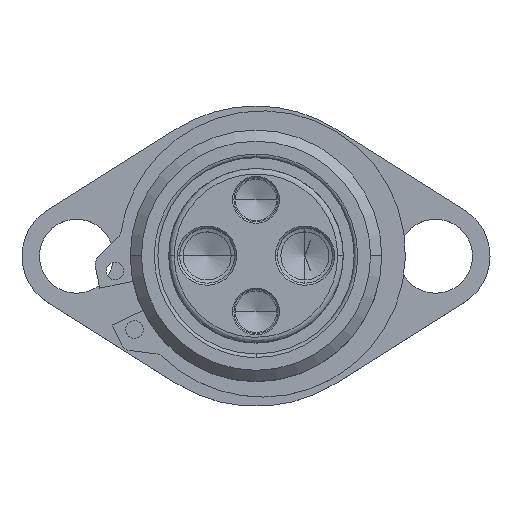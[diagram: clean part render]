
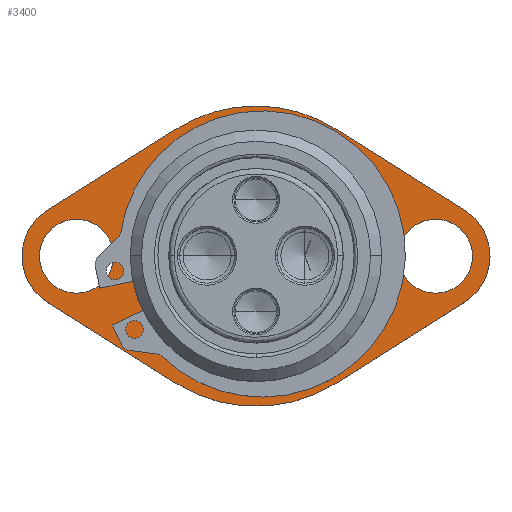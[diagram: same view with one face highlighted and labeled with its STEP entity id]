
A CAD part, top view. The second image highlights one B-rep face of the part: STEP entity #3400.
In plain terms, the highlighted planar face has unit normal (0, 0, 1) as drawn and (0, 1, 0) by its records, which use the part's own axes.
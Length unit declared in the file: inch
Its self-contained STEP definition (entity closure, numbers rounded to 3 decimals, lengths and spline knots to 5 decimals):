
#45 = CARTESIAN_POINT ( 'NONE',  ( 0., 0.25, 0. ) ) ;
#49 = DIRECTION ( 'NONE',  ( 0.846, 0., 0.533 ) ) ;
#168 = DIRECTION ( 'NONE',  ( 0., 0., 1. ) ) ;
#173 = DIRECTION ( 'NONE',  ( 0., 0., -1. ) ) ;
#272 = EDGE_CURVE ( 'NONE', #4835, #4125, #2922, .T. ) ;
#295 = CARTESIAN_POINT ( 'NONE',  ( -1.285, 0.25, 0. ) ) ;
#323 = CIRCLE ( 'NONE', #3533, 0.39 ) ;
#335 = VECTOR ( 'NONE', #1995, 39.37008 ) ;
#397 = CARTESIAN_POINT ( 'NONE',  ( -1.285, 0.25, 0. ) ) ;
#528 = EDGE_CURVE ( 'NONE', #3159, #596, #4292, .T. ) ;
#554 = CARTESIAN_POINT ( 'NONE',  ( 0., 0.25, 0. ) ) ;
#561 = ORIENTED_EDGE ( 'NONE', *, *, #4754, .T. ) ;
#589 = AXIS2_PLACEMENT_3D ( 'NONE', #397, #3460, #3077 ) ;
#595 = DIRECTION ( 'NONE',  ( 0., 0., -1. ) ) ;
#596 = VERTEX_POINT ( 'NONE', #4041 ) ;
#622 = CARTESIAN_POINT ( 'NONE',  ( 0., 0.25, -1.075 ) ) ;
#647 = VERTEX_POINT ( 'NONE', #651 ) ;
#651 = CARTESIAN_POINT ( 'NONE',  ( -1.285, 0.25, 0.265 ) ) ;
#722 = CIRCLE ( 'NONE', #1578, 1.075 ) ;
#778 = DIRECTION ( 'NONE',  ( 0., 0., -1. ) ) ;
#801 = EDGE_CURVE ( 'NONE', #3159, #3498, #1424, .T. ) ;
#820 = FACE_OUTER_BOUND ( 'NONE', #2929, .T. ) ;
#841 = VERTEX_POINT ( 'NONE', #4891 ) ;
#855 = LINE ( 'NONE', #4238, #335 ) ;
#912 = AXIS2_PLACEMENT_3D ( 'NONE', #3130, #2364, #778 ) ;
#965 = FACE_BOUND ( 'NONE', #3231, .T. ) ;
#1027 = CARTESIAN_POINT ( 'NONE',  ( 0.57305, 0.25, -0.90952 ) ) ;
#1082 = ORIENTED_EDGE ( 'NONE', *, *, #1440, .T. ) ;
#1089 = ORIENTED_EDGE ( 'NONE', *, *, #4317, .T. ) ;
#1152 = DIRECTION ( 'NONE',  ( 0., -1., 0. ) ) ;
#1179 = VERTEX_POINT ( 'NONE', #3786 ) ;
#1184 = VERTEX_POINT ( 'NONE', #4537 ) ;
#1235 = VECTOR ( 'NONE', #4340, 39.37008 ) ;
#1247 = ORIENTED_EDGE ( 'NONE', *, *, #801, .F. ) ;
#1340 = EDGE_CURVE ( 'NONE', #4075, #596, #4339, .T. ) ;
#1348 = CIRCLE ( 'NONE', #2892, 0.265 ) ;
#1393 = CARTESIAN_POINT ( 'NONE',  ( 1.4929, 0.25, 0.32997 ) ) ;
#1424 = CIRCLE ( 'NONE', #2278, 0.39 ) ;
#1440 = EDGE_CURVE ( 'NONE', #841, #3032, #1348, .T. ) ;
#1488 = CARTESIAN_POINT ( 'NONE',  ( 1.285, 0.25, 0. ) ) ;
#1490 = EDGE_LOOP ( 'NONE', ( #1082, #3023 ) ) ;
#1500 = CARTESIAN_POINT ( 'NONE',  ( 1.285, 0.25, 0. ) ) ;
#1578 = AXIS2_PLACEMENT_3D ( 'NONE', #4321, #3263, #595 ) ;
#1586 = CARTESIAN_POINT ( 'NONE',  ( 1.4929, 0.25, -0.32997 ) ) ;
#1593 = VERTEX_POINT ( 'NONE', #3395 ) ;
#1594 = EDGE_CURVE ( 'NONE', #1179, #3636, #323, .T. ) ;
#1609 = CARTESIAN_POINT ( 'NONE',  ( 0., 0.25, 0. ) ) ;
#1611 = CARTESIAN_POINT ( 'NONE',  ( -0.57305, 0.25, -0.90952 ) ) ;
#1625 = CARTESIAN_POINT ( 'NONE',  ( -1.285, 0.25, 0. ) ) ;
#1684 = DIRECTION ( 'NONE',  ( 0., -1., 0. ) ) ;
#1754 = DIRECTION ( 'NONE',  ( 0., -1., 0. ) ) ;
#1835 = CIRCLE ( 'NONE', #4817, 0.265 ) ;
#1904 = ORIENTED_EDGE ( 'NONE', *, *, #1340, .F. ) ;
#1988 = FACE_BOUND ( 'NONE', #1490, .T. ) ;
#1995 = DIRECTION ( 'NONE',  ( 0.846, 0., -0.533 ) ) ;
#2070 = EDGE_CURVE ( 'NONE', #1184, #647, #3242, .T. ) ;
#2106 = EDGE_CURVE ( 'NONE', #3573, #4075, #722, .T. ) ;
#2200 = LINE ( 'NONE', #3603, #1235 ) ;
#2266 = EDGE_CURVE ( 'NONE', #3032, #841, #1835, .T. ) ;
#2278 = AXIS2_PLACEMENT_3D ( 'NONE', #1500, #4528, #2303 ) ;
#2303 = DIRECTION ( 'NONE',  ( 0., 0., -1. ) ) ;
#2364 = DIRECTION ( 'NONE',  ( 0., -1., 0. ) ) ;
#2377 = CARTESIAN_POINT ( 'NONE',  ( -1.4929, 0.25, -0.32997 ) ) ;
#2390 = ORIENTED_EDGE ( 'NONE', *, *, #4216, .T. ) ;
#2453 = CARTESIAN_POINT ( 'NONE',  ( 0.57305, 0.25, 0.90952 ) ) ;
#2498 = LINE ( 'NONE', #3884, #2566 ) ;
#2566 = VECTOR ( 'NONE', #49, 39.37008 ) ;
#2606 = AXIS2_PLACEMENT_3D ( 'NONE', #4672, #1754, #4707 ) ;
#2614 = AXIS2_PLACEMENT_3D ( 'NONE', #1625, #2902, #168 ) ;
#2648 = CARTESIAN_POINT ( 'NONE',  ( 0., 0.25, -0.9 ) ) ;
#2659 = DIRECTION ( 'NONE',  ( 0., 0., -1. ) ) ;
#2739 = EDGE_LOOP ( 'NONE', ( #3912, #3189 ) ) ;
#2762 = DIRECTION ( 'NONE',  ( 0., -1., 0. ) ) ;
#2856 = DIRECTION ( 'NONE',  ( 0., 0., -1. ) ) ;
#2892 = AXIS2_PLACEMENT_3D ( 'NONE', #4634, #1684, #173 ) ;
#2902 = DIRECTION ( 'NONE',  ( 0., 1., 0. ) ) ;
#2922 = CIRCLE ( 'NONE', #912, 1.075 ) ;
#2929 = EDGE_LOOP ( 'NONE', ( #4061, #1089, #3682, #561, #3827, #4888, #1247, #4854, #1904 ) ) ;
#2945 = CIRCLE ( 'NONE', #4444, 0.9 ) ;
#2974 = VECTOR ( 'NONE', #4364, 39.37008 ) ;
#3023 = ORIENTED_EDGE ( 'NONE', *, *, #2266, .T. ) ;
#3032 = VERTEX_POINT ( 'NONE', #3739 ) ;
#3077 = DIRECTION ( 'NONE',  ( 0., 0., -1. ) ) ;
#3130 = CARTESIAN_POINT ( 'NONE',  ( 0., 0.25, 0. ) ) ;
#3138 = DIRECTION ( 'NONE',  ( 0., 0., -1. ) ) ;
#3144 = VERTEX_POINT ( 'NONE', #2648 ) ;
#3145 = CIRCLE ( 'NONE', #3616, 0.9 ) ;
#3153 = EDGE_CURVE ( 'NONE', #1593, #3144, #2945, .T. ) ;
#3159 = VERTEX_POINT ( 'NONE', #1586 ) ;
#3189 = ORIENTED_EDGE ( 'NONE', *, *, #3153, .T. ) ;
#3231 = EDGE_LOOP ( 'NONE', ( #3429, #2390 ) ) ;
#3242 = CIRCLE ( 'NONE', #2606, 0.265 ) ;
#3263 = DIRECTION ( 'NONE',  ( 0., -1., 0. ) ) ;
#3331 = DIRECTION ( 'NONE',  ( 0., 0., -1. ) ) ;
#3395 = CARTESIAN_POINT ( 'NONE',  ( 0., 0.25, 0.9 ) ) ;
#3400 = ADVANCED_FACE ( 'NONE', ( #965, #820, #1988, #4595 ), #3898, .T. ) ;
#3429 = ORIENTED_EDGE ( 'NONE', *, *, #2070, .T. ) ;
#3449 = DIRECTION ( 'NONE',  ( 0., -1., 0. ) ) ;
#3460 = DIRECTION ( 'NONE',  ( 0., -1., 0. ) ) ;
#3498 = VERTEX_POINT ( 'NONE', #1393 ) ;
#3533 = AXIS2_PLACEMENT_3D ( 'NONE', #295, #4486, #3331 ) ;
#3546 = DIRECTION ( 'NONE',  ( 0., -1., 0. ) ) ;
#3573 = VERTEX_POINT ( 'NONE', #1611 ) ;
#3603 = CARTESIAN_POINT ( 'NONE',  ( -1.4929, 0.25, -0.32997 ) ) ;
#3616 = AXIS2_PLACEMENT_3D ( 'NONE', #554, #3546, #2856 ) ;
#3636 = VERTEX_POINT ( 'NONE', #2377 ) ;
#3682 = ORIENTED_EDGE ( 'NONE', *, *, #1594, .F. ) ;
#3739 = CARTESIAN_POINT ( 'NONE',  ( 1.285, 0.25, 0.265 ) ) ;
#3786 = CARTESIAN_POINT ( 'NONE',  ( -1.4929, 0.25, 0.32997 ) ) ;
#3827 = ORIENTED_EDGE ( 'NONE', *, *, #272, .F. ) ;
#3884 = CARTESIAN_POINT ( 'NONE',  ( -1.4929, 0.25, 0.32997 ) ) ;
#3898 = PLANE ( 'NONE',  #2614 ) ;
#3912 = ORIENTED_EDGE ( 'NONE', *, *, #4879, .T. ) ;
#4000 = AXIS2_PLACEMENT_3D ( 'NONE', #1609, #2762, #3138 ) ;
#4041 = CARTESIAN_POINT ( 'NONE',  ( 0.57305, 0.25, -0.90952 ) ) ;
#4061 = ORIENTED_EDGE ( 'NONE', *, *, #2106, .F. ) ;
#4075 = VERTEX_POINT ( 'NONE', #622 ) ;
#4125 = VERTEX_POINT ( 'NONE', #4438 ) ;
#4216 = EDGE_CURVE ( 'NONE', #647, #1184, #4423, .T. ) ;
#4238 = CARTESIAN_POINT ( 'NONE',  ( 0.57305, 0.25, 0.90952 ) ) ;
#4292 = LINE ( 'NONE', #1027, #2974 ) ;
#4317 = EDGE_CURVE ( 'NONE', #3573, #3636, #2200, .T. ) ;
#4321 = CARTESIAN_POINT ( 'NONE',  ( 0., 0.25, 0. ) ) ;
#4339 = CIRCLE ( 'NONE', #4000, 1.075 ) ;
#4340 = DIRECTION ( 'NONE',  ( -0.846, 0., 0.533 ) ) ;
#4364 = DIRECTION ( 'NONE',  ( -0.846, 0., -0.533 ) ) ;
#4423 = CIRCLE ( 'NONE', #589, 0.265 ) ;
#4438 = CARTESIAN_POINT ( 'NONE',  ( -0.57305, 0.25, 0.90952 ) ) ;
#4444 = AXIS2_PLACEMENT_3D ( 'NONE', #45, #3449, #4517 ) ;
#4486 = DIRECTION ( 'NONE',  ( 0., -1., 0. ) ) ;
#4517 = DIRECTION ( 'NONE',  ( 0., 0., -1. ) ) ;
#4528 = DIRECTION ( 'NONE',  ( 0., -1., 0. ) ) ;
#4537 = CARTESIAN_POINT ( 'NONE',  ( -1.285, 0.25, -0.265 ) ) ;
#4595 = FACE_BOUND ( 'NONE', #2739, .T. ) ;
#4634 = CARTESIAN_POINT ( 'NONE',  ( 1.285, 0.25, 0. ) ) ;
#4672 = CARTESIAN_POINT ( 'NONE',  ( -1.285, 0.25, 0. ) ) ;
#4707 = DIRECTION ( 'NONE',  ( 0., 0., -1. ) ) ;
#4754 = EDGE_CURVE ( 'NONE', #1179, #4125, #2498, .T. ) ;
#4817 = AXIS2_PLACEMENT_3D ( 'NONE', #1488, #1152, #2659 ) ;
#4823 = EDGE_CURVE ( 'NONE', #4835, #3498, #855, .T. ) ;
#4835 = VERTEX_POINT ( 'NONE', #2453 ) ;
#4854 = ORIENTED_EDGE ( 'NONE', *, *, #528, .T. ) ;
#4879 = EDGE_CURVE ( 'NONE', #3144, #1593, #3145, .T. ) ;
#4888 = ORIENTED_EDGE ( 'NONE', *, *, #4823, .T. ) ;
#4891 = CARTESIAN_POINT ( 'NONE',  ( 1.285, 0.25, -0.265 ) ) ;
